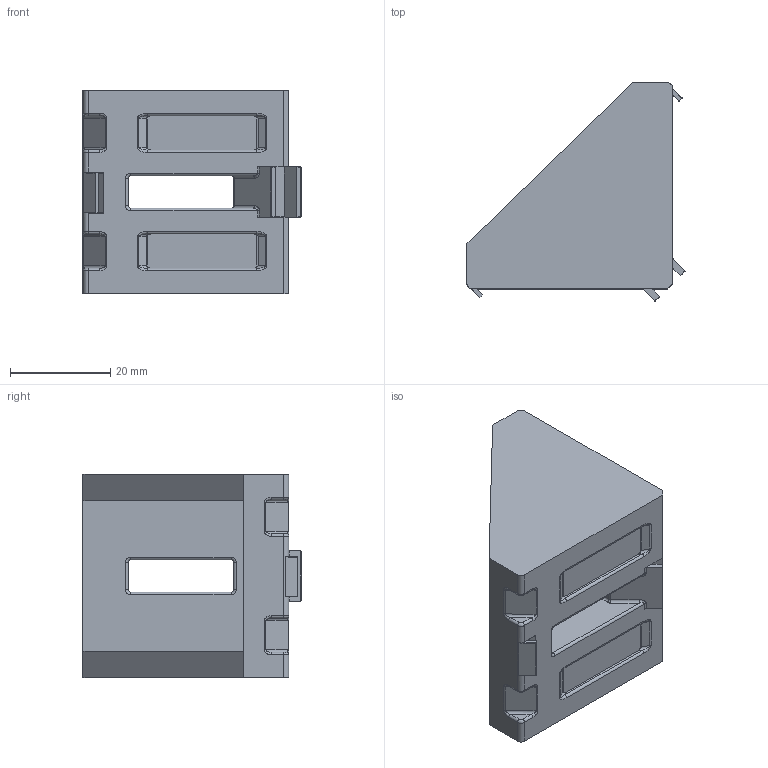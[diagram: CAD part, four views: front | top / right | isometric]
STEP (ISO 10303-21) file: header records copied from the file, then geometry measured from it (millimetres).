
FILE_DESCRIPTION (( 'STEP AP203' ), '1' );
FILE_NAME ('gusset 40 X 40 mm.STEP', '2012-05-29T19:30:10', ( '' ), ( '' ), 'SwSTEP 2.0', 'SolidWorks 2010', '' );
FILE_SCHEMA (( 'CONFIG_CONTROL_DESIGN' ));
Length unit declared in the file: millimetre
Products named in the file (1): gusset 40 X 40 mm
Bounding box: 43.43 x 43.43 x 40.6 mm (x, y, z)
Volume: 27424.1 mm3; surface area: 10565.3 mm2
Topology: 1 solids, 1 shells, 297 faces, 725 edges, 432 vertices
Faces by surface type: cylinder 149, plane 87, bspline 38, torus 22, sphere 1
Entity records: 11841 total; most frequent: CARTESIAN_POINT 5259, ORIENTED_EDGE 1450, DIRECTION 1284, EDGE_CURVE 725, AXIS2_PLACEMENT_3D 451, VERTEX_POINT 432, LINE 382, VECTOR 382
